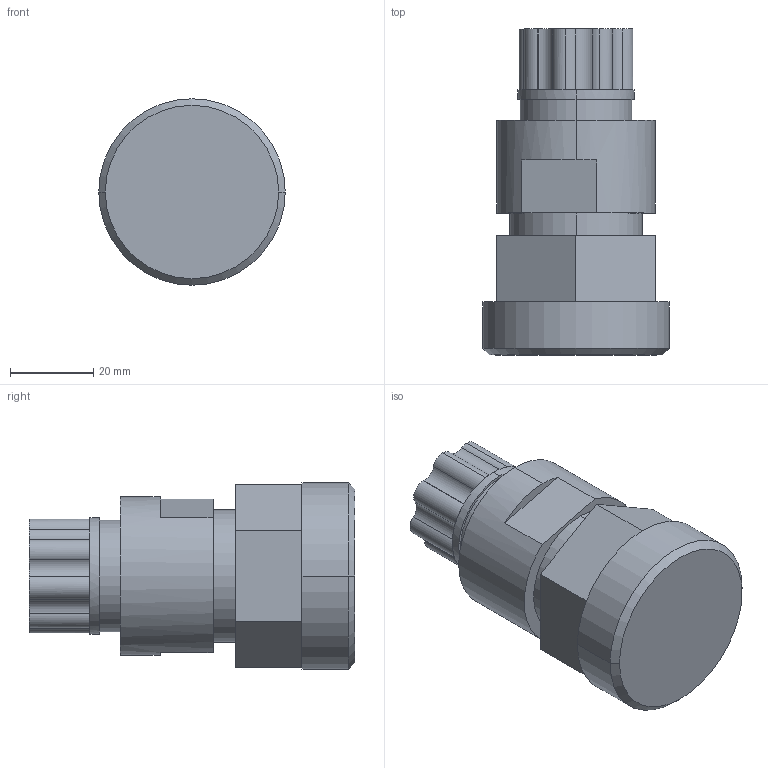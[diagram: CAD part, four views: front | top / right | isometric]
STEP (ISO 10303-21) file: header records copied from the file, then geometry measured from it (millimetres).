
FILE_DESCRIPTION (( 'STEP AP214' ), '1' );
FILE_NAME ('08-synchro-flare-with-top-mount-adapter.STEP', '2012-11-27T20:47:23', ( '' ), ( '' ), 'SwSTEP 2.0', 'SolidWorks 2012', '' );
FILE_SCHEMA (( 'AUTOMOTIVE_DESIGN' ));
Length unit declared in the file: inch
Products named in the file (1): 08-synchro-flare-with-top-mount-adapter
Bounding box: 44.7 x 78.14 x 44.7 mm (x, y, z)
Volume: 79494.9 mm3; surface area: 13116.7 mm2
Topology: 1 solids, 1 shells, 61 faces, 149 edges, 96 vertices
Faces by surface type: cylinder 33, plane 26, cone 2
Entity records: 1910 total; most frequent: DIRECTION 361, CARTESIAN_POINT 307, ORIENTED_EDGE 298, AXIS2_PLACEMENT_3D 150, EDGE_CURVE 149, VERTEX_POINT 96, CIRCLE 88, EDGE_LOOP 67
